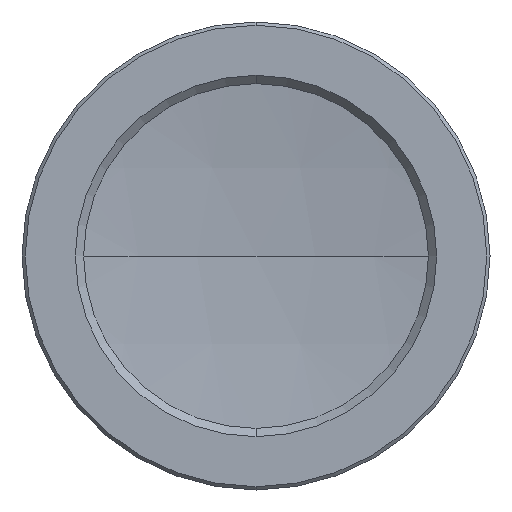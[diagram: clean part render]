
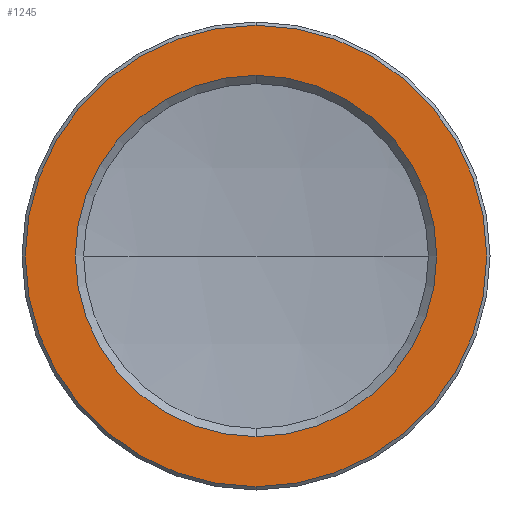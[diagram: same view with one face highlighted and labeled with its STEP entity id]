
A CAD part, front view. The second image highlights one B-rep face of the part: STEP entity #1245.
In plain terms, the highlighted planar face has unit normal (0, -1, 0).
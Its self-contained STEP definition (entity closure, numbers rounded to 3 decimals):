
#119 = AXIS2_PLACEMENT_3D ( 'NONE', #1888, #1752, #4040 ) ;
#240 = PLANE ( 'NONE',  #2443 ) ;
#276 = AXIS2_PLACEMENT_3D ( 'NONE', #770, #2824, #3469 ) ;
#587 = CIRCLE ( 'NONE', #276, 11. ) ;
#597 = CARTESIAN_POINT ( 'NONE',  ( 0., 49.21, 11. ) ) ;
#631 = DIRECTION ( 'NONE',  ( 0., -1., 0. ) ) ;
#741 = CIRCLE ( 'NONE', #119, 14.05 ) ;
#742 = AXIS2_PLACEMENT_3D ( 'NONE', #2273, #631, #1505 ) ;
#770 = CARTESIAN_POINT ( 'NONE',  ( 0., 49.21, 0. ) ) ;
#852 = VERTEX_POINT ( 'NONE', #2131 ) ;
#857 = CARTESIAN_POINT ( 'NONE',  ( 14.25, 49.21, 0. ) ) ;
#921 = EDGE_CURVE ( 'NONE', #3214, #852, #741, .T. ) ;
#1054 = EDGE_LOOP ( 'NONE', ( #1324, #3171 ) ) ;
#1245 = ADVANCED_FACE ( 'NONE', ( #1706, #3348 ), #240, .T. ) ;
#1324 = ORIENTED_EDGE ( 'NONE', *, *, #921, .T. ) ;
#1446 = DIRECTION ( 'NONE',  ( 0., -1., 0. ) ) ;
#1490 = CIRCLE ( 'NONE', #742, 14.05 ) ;
#1505 = DIRECTION ( 'NONE',  ( 0., 0., -1. ) ) ;
#1704 = ORIENTED_EDGE ( 'NONE', *, *, #2062, .T. ) ;
#1706 = FACE_BOUND ( 'NONE', #2776, .T. ) ;
#1752 = DIRECTION ( 'NONE',  ( 0., -1., 0. ) ) ;
#1773 = VERTEX_POINT ( 'NONE', #2389 ) ;
#1867 = EDGE_CURVE ( 'NONE', #2426, #1773, #4002, .T. ) ;
#1879 = EDGE_CURVE ( 'NONE', #852, #3214, #1490, .T. ) ;
#1888 = CARTESIAN_POINT ( 'NONE',  ( 0., 49.21, 0. ) ) ;
#2062 = EDGE_CURVE ( 'NONE', #1773, #2426, #587, .T. ) ;
#2131 = CARTESIAN_POINT ( 'NONE',  ( 0., 49.21, -14.05 ) ) ;
#2273 = CARTESIAN_POINT ( 'NONE',  ( 0., 49.21, 0. ) ) ;
#2389 = CARTESIAN_POINT ( 'NONE',  ( 0., 49.21, -11. ) ) ;
#2426 = VERTEX_POINT ( 'NONE', #597 ) ;
#2443 = AXIS2_PLACEMENT_3D ( 'NONE', #857, #1446, #3280 ) ;
#2567 = AXIS2_PLACEMENT_3D ( 'NONE', #2944, #3462, #3970 ) ;
#2776 = EDGE_LOOP ( 'NONE', ( #1704, #3053 ) ) ;
#2824 = DIRECTION ( 'NONE',  ( 0., 1., 0. ) ) ;
#2944 = CARTESIAN_POINT ( 'NONE',  ( 0., 49.21, 0. ) ) ;
#3053 = ORIENTED_EDGE ( 'NONE', *, *, #1867, .T. ) ;
#3171 = ORIENTED_EDGE ( 'NONE', *, *, #1879, .T. ) ;
#3214 = VERTEX_POINT ( 'NONE', #3307 ) ;
#3280 = DIRECTION ( 'NONE',  ( 0., 0., -1. ) ) ;
#3307 = CARTESIAN_POINT ( 'NONE',  ( 0., 49.21, 14.05 ) ) ;
#3348 = FACE_OUTER_BOUND ( 'NONE', #1054, .T. ) ;
#3462 = DIRECTION ( 'NONE',  ( 0., 1., 0. ) ) ;
#3469 = DIRECTION ( 'NONE',  ( 0., 0., -1. ) ) ;
#3970 = DIRECTION ( 'NONE',  ( 0., 0., -1. ) ) ;
#4002 = CIRCLE ( 'NONE', #2567, 11. ) ;
#4040 = DIRECTION ( 'NONE',  ( 0., 0., -1. ) ) ;
